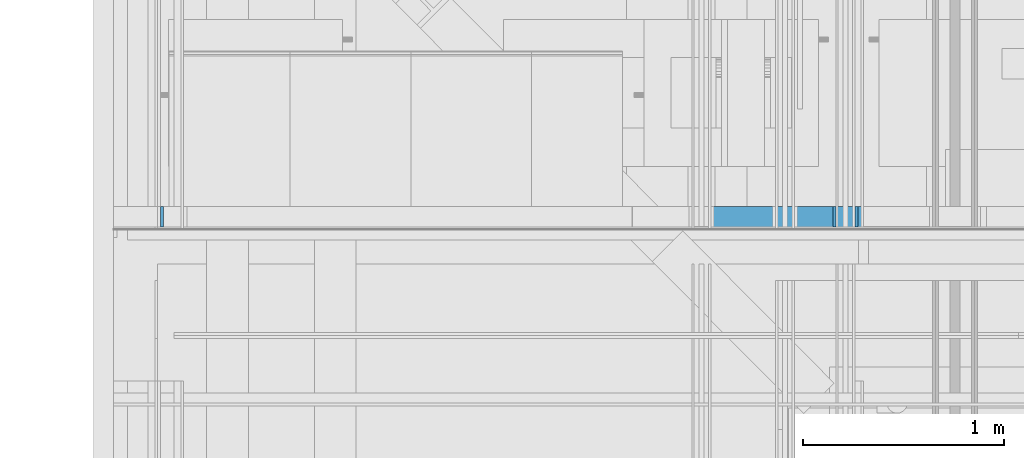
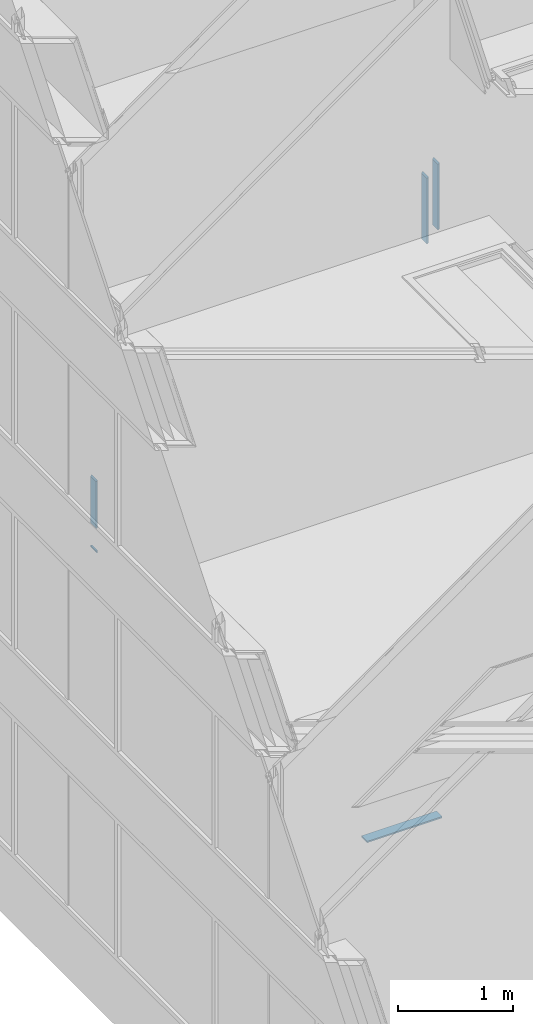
# One storey, part 210 of 583: 5 building element parts, 3 elements without a shape of their own.
"""IFC2X3 building model written with IfcOpenShell, lengths in metres."""

import ifcopenshell
import ifcopenshell.guid

model = None  # the IFC model being written
_history = None  # IfcOwnerHistory: only IFC2X3 demands one
_inside = {}  # id of a spatial element -> (the spatial element, [elements in it])
_under = {}  # id of a project, library or spatial element -> (it, [spatial elements below it])
_declared = {}  # id of a project -> (the project, [libraries it declares])
_typed = {}  # id of a type object -> (the type object, [elements of that type])
_made_of = {}  # id of a material, layer set ... -> (it, [elements and type objects made of it])


def new_model(schema):
    """Start an empty IFC model of exactly this schema.

    Asked for "IFC4X3", IfcOpenShell would pick the latest addendum, in which some entities
    have other attributes; the version numbers below select the first issue.
    IFC2X3 requires an IfcOwnerHistory on every rooted entity: one is made here for all.
    """
    global model, _history
    if schema == "IFC4X3":
        model = ifcopenshell.file(schema_version=(4, 3, 0, 0))
    else:
        model = ifcopenshell.file(schema=schema)
    _inside.clear()
    _under.clear()
    _declared.clear()
    _typed.clear()
    _made_of.clear()
    _history = None
    if model.schema == "IFC2X3":
        org = make("IfcOrganization", Name="unknown")
        user = make(
            "IfcPersonAndOrganization",
            ThePerson=make("IfcPerson", FamilyName="unknown"),
            TheOrganization=org,
        )
        app = make(
            "IfcApplication",
            ApplicationDeveloper=org,
            Version="unknown",
            ApplicationFullName="unknown",
            ApplicationIdentifier="unknown",
        )
        _history = make(
            "IfcOwnerHistory",
            OwningUser=user,
            OwningApplication=app,
            ChangeAction="ADDED",
            CreationDate=0,
        )
    return model


def make(cls, **values):
    """One entity of the class cls with the attributes given. An attribute that is None is left unset."""
    return model.create_entity(
        cls, **{name: value for name, value in values.items() if value is not None}
    )


def entity(cls, *values):
    """Any entity or typed value of the class cls, its attributes in the order of the schema. None: left unset."""
    e = model.create_entity(cls)
    for i, value in enumerate(values):
        if value is not None:
            e[i] = value
    return e


def rooted(cls, **values):
    """An entity with a GlobalId (a new one), such as an element, a storey or a relation."""
    return make(cls, GlobalId=ifcopenshell.guid.new(), OwnerHistory=_history, **values)


def si_unit(unit_type, name, prefix=None):
    """IfcSIUnit, for example si_unit("LENGTHUNIT", "METRE", prefix="MILLI")."""
    return make("IfcSIUnit", UnitType=unit_type, Prefix=prefix, Name=name)


def converted_unit(unit_type, name, factor, base, dimensions=None, offset=None):
    """IfcConversionBasedUnit, such as the inch: factor (a typed value) times the base unit."""
    return make(
        "IfcConversionBasedUnit"
        if offset is None
        else "IfcConversionBasedUnitWithOffset",
        ConversionOffset=offset,
        Dimensions=None
        if dimensions is None
        else entity("IfcDimensionalExponents", *dimensions),
        UnitType=unit_type,
        Name=name,
        ConversionFactor=make(
            "IfcMeasureWithUnit", ValueComponent=factor, UnitComponent=base
        ),
    )


def derived_unit(unit_type, elements):
    """IfcDerivedUnit: a product of units, each with its exponent."""
    return make(
        "IfcDerivedUnit",
        Elements=[
            make("IfcDerivedUnitElement", Unit=unit, Exponent=power)
            for unit, power in elements
        ],
        UnitType=unit_type,
    )


def money_unit(currency):
    """IfcMonetaryUnit."""
    return make("IfcMonetaryUnit", Currency=currency)


def assignment(units):
    """IfcUnitAssignment: the units of a project."""
    return None if units is None else make("IfcUnitAssignment", Units=units)


def point(xyz):
    """IfcCartesianPoint."""
    return None if xyz is None else make("IfcCartesianPoint", Coordinates=xyz)


def direction(xyz):
    """IfcDirection."""
    return None if xyz is None else make("IfcDirection", DirectionRatios=xyz)


def frame(location, z_axis=None, x_axis=None):
    """IfcAxis2Placement3D, a coordinate frame: its origin and axes. An axis left out is left unset."""
    return make(
        "IfcAxis2Placement3D",
        Location=point(location),
        Axis=direction(z_axis),
        RefDirection=direction(x_axis),
    )


def frame_2d(location, x_axis=None):
    """IfcAxis2Placement2D, a coordinate frame in the plane: its origin and x axis."""
    return make(
        "IfcAxis2Placement2D", Location=point(location), RefDirection=direction(x_axis)
    )


def origin_with_axes():
    """The frame at (0, 0, 0) with the z axis (0, 0, 1) and the x axis (1, 0, 0) written out."""
    return frame((0.0, 0.0, 0.0), z_axis=(0.0, 0.0, 1.0), x_axis=(1.0, 0.0, 0.0))


def place(relative_to, where):
    """IfcLocalPlacement: puts the frame where relative to a parent placement (None: the world)."""
    return make(
        "IfcLocalPlacement", PlacementRelTo=relative_to, RelativePlacement=where
    )


def context(
    kind, dimensions, precision=None, world=None, true_north=None, identifier=None
):
    """IfcGeometricRepresentationContext, for example the 3D "Model" context."""
    return make(
        "IfcGeometricRepresentationContext",
        ContextIdentifier=identifier,
        ContextType=kind,
        CoordinateSpaceDimension=dimensions,
        Precision=precision,
        WorldCoordinateSystem=world,
        TrueNorth=true_north,
    )


def subcontext(parent, identifier, kind, view, scale=None):
    """IfcGeometricRepresentationSubContext, for example "Body" below "Model"."""
    return make(
        "IfcGeometricRepresentationSubContext",
        ContextIdentifier=identifier,
        ContextType=kind,
        ParentContext=parent,
        TargetScale=scale,
        TargetView=view,
    )


def project(units=None, contexts=None):
    """IfcProject with its units and contexts."""
    return rooted(
        "IfcProject",
        Name="project",
        RepresentationContexts=contexts,
        UnitsInContext=assignment(units),
    )


def spatial(cls, under=None, at=None, **own):
    """A site, building, storey or space (cls), placed at a placement, below another one or the project."""
    s = rooted(cls, ObjectPlacement=at, **own)
    if under is not None:
        _under.setdefault(under.id(), (under, []))[1].append(s)
    return s


def polyline(points):
    """IfcPolyline through the points."""
    return make("IfcPolyline", Points=[point(p) for p in points])


def profile(cls, at=None, kind="AREA", **sizes):
    """A parametric profile (cls). Its sizes go by their IFC names, for example OverallWidth=200.0."""
    return make(cls, ProfileType=kind, Position=at, **sizes)


def rectangle(**sizes):
    """IfcRectangleProfileDef."""
    return profile("IfcRectangleProfileDef", **sizes)


def outline(outer, holes=None, kind="AREA"):
    """IfcArbitraryClosedProfileDef: a profile drawn as a closed curve; with holes, ...WithVoids."""
    if holes is None:
        return make("IfcArbitraryClosedProfileDef", ProfileType=kind, OuterCurve=outer)
    return make(
        "IfcArbitraryProfileDefWithVoids",
        ProfileType=kind,
        OuterCurve=outer,
        InnerCurves=holes,
    )


def extrude(swept, where, along, depth):
    """IfcExtrudedAreaSolid: the profile swept, set in the frame where, extruded along a direction by depth."""
    return make(
        "IfcExtrudedAreaSolid",
        SweptArea=swept,
        Position=where,
        ExtrudedDirection=direction(along),
        Depth=depth,
    )


def shape(context_of_items, identifier, shape_type, items):
    """IfcShapeRepresentation: the items that make up one representation, for example the "Body"."""
    return make(
        "IfcShapeRepresentation",
        ContextOfItems=context_of_items,
        RepresentationIdentifier=identifier,
        RepresentationType=shape_type,
        Items=items,
    )


def material(Name=None, Category=None):
    """IfcMaterial."""
    return make("IfcMaterial", Name=Name, Category=Category)


def made_of(thing, what):
    """Note that an element or type object is made of a material, layer set ...; save() writes the relation."""
    if what is not None:
        _made_of.setdefault(what.id(), (what, []))[1].append(thing)
    return thing


def type_object(cls, material=None, **own):
    """A type object (cls), such as IfcWallType, which elements share."""
    return made_of(rooted(cls, **own), material)


def element(
    cls,
    number,
    at=None,
    inside=None,
    cuts=None,
    type_object=None,
    material=None,
    context=None,
    identifier="Body",
    shape_type=None,
    held_by="IfcProductDefinitionShape",
    body=None,
    shapes=None,
    **own,
):
    """One element of the class cls, such as IfcWall. Its Tag is "e" and its number.

    at: its placement. inside: the storey or other place that contains it. cuts: it is an
    opening in that element (IfcRelVoidsElement). A single representation is given by context,
    identifier, shape_type and body (its items); several are given by shapes. held_by: the class
    of the entity that holds the representations. save() writes the other relations.
    """
    e = rooted(cls, Tag="e%d" % number, ObjectPlacement=at, **own)
    if body is not None:
        shapes = [shape(context, identifier, shape_type, body)]
    if shapes is not None:
        e.Representation = make(held_by, Representations=shapes)
    if inside is not None:
        _inside.setdefault(inside.id(), (inside, []))[1].append(e)
    if cuts is not None:
        rooted(
            "IfcRelVoidsElement", RelatingBuildingElement=cuts, RelatedOpeningElement=e
        )
    if type_object is not None:
        _typed.setdefault(type_object.id(), (type_object, []))[1].append(e)
    return made_of(e, material)


def aggregate(whole, parts):
    """IfcRelAggregates: a whole, such as a stair, and the parts it consists of."""
    return rooted("IfcRelAggregates", RelatingObject=whole, RelatedObjects=parts)


def save(model, path):
    """Write the relations noted so far, then the file.

    IfcRelAggregates (storeys below a building ...), IfcRelContainedInSpatialStructure (elements
    in a storey), IfcRelDefinesByType, IfcRelAssociatesMaterial and IfcRelDeclares: one each for
    every whole, place, type object, material and project.
    """
    for whole, parts in _under.values():
        aggregate(whole, parts)
    for where, things in _inside.values():
        rooted(
            "IfcRelContainedInSpatialStructure",
            RelatedElements=things,
            RelatingStructure=where,
        )
    for kind, things in _typed.values():
        rooted("IfcRelDefinesByType", RelatedObjects=things, RelatingType=kind)
    for what, things in _made_of.values():
        rooted("IfcRelAssociatesMaterial", RelatedObjects=things, RelatingMaterial=what)
    for by, libraries in _declared.values():
        rooted("IfcRelDeclares", RelatingContext=by, RelatedDefinitions=libraries)
    model.write(path)


model = new_model("IFC2X3")

# Units and contexts
model_context = context("Model", 3, precision=1e-05, world=origin_with_axes(), true_north=direction((0.0, 1.0)))
body_context = subcontext(model_context, "Body", "Model", "MODEL_VIEW", scale=1.0)
ifc_project = project(units=[si_unit("LENGTHUNIT", "METRE"), si_unit("AREAUNIT", "SQUARE_METRE"), si_unit("VOLUMEUNIT", "CUBIC_METRE"), si_unit("ABSORBEDDOSEUNIT", "GRAY"), si_unit("AMOUNTOFSUBSTANCEUNIT", "MOLE"), si_unit("DOSEEQUIVALENTUNIT", "SIEVERT"), si_unit("ELECTRICCAPACITANCEUNIT", "FARAD"), si_unit("ELECTRICCHARGEUNIT", "COULOMB"), si_unit("ELECTRICCONDUCTANCEUNIT", "SIEMENS"), si_unit("ELECTRICCURRENTUNIT", "AMPERE"), si_unit("ELECTRICRESISTANCEUNIT", "OHM"), si_unit("ELECTRICVOLTAGEUNIT", "VOLT"), si_unit("ENERGYUNIT", "JOULE"), si_unit("FORCEUNIT", "NEWTON"), si_unit("FREQUENCYUNIT", "HERTZ"), si_unit("ILLUMINANCEUNIT", "LUX"), si_unit("INDUCTANCEUNIT", "HENRY"), si_unit("LUMINOUSFLUXUNIT", "LUMEN"), si_unit("LUMINOUSINTENSITYUNIT", "CANDELA"), si_unit("MAGNETICFLUXDENSITYUNIT", "TESLA"), si_unit("MAGNETICFLUXUNIT", "WEBER"), si_unit("MASSUNIT", "GRAM"), converted_unit("PLANEANGLEUNIT", "degree", entity("IfcReal", 0.0174532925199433), si_unit("PLANEANGLEUNIT", "RADIAN"), dimensions=[0, 0, 0, 0, 0, 0, 0]), si_unit("POWERUNIT", "WATT"), si_unit("PRESSUREUNIT", "PASCAL"), si_unit("RADIOACTIVITYUNIT", "BECQUEREL"), si_unit("SOLIDANGLEUNIT", "STERADIAN"), si_unit("THERMODYNAMICTEMPERATUREUNIT", "KELVIN"), si_unit("TIMEUNIT", "SECOND"), derived_unit("ACCELERATIONUNIT", [(si_unit("LENGTHUNIT", "METRE"), 1), (si_unit("TIMEUNIT", "SECOND"), -2)]), derived_unit("ANGULARVELOCITYUNIT", [(converted_unit("PLANEANGLEUNIT", "degree", entity("IfcReal", 0.0174532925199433), si_unit("PLANEANGLEUNIT", "RADIAN"), dimensions=[0, 0, 0, 0, 0, 0, 0]), 1), (si_unit("TIMEUNIT", "SECOND"), -1)]), derived_unit("CURVATUREUNIT", [(converted_unit("PLANEANGLEUNIT", "degree", entity("IfcReal", 0.0174532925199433), si_unit("PLANEANGLEUNIT", "RADIAN"), dimensions=[0, 0, 0, 0, 0, 0, 0]), 1), (si_unit("LENGTHUNIT", "METRE"), -1)]), derived_unit("DYNAMICVISCOSITYUNIT", [(si_unit("PRESSUREUNIT", "PASCAL"), 1), (si_unit("TIMEUNIT", "SECOND"), 1)]), derived_unit("HEATFLUXDENSITYUNIT", [(si_unit("POWERUNIT", "WATT"), 1), (si_unit("LENGTHUNIT", "METRE"), -2)]), derived_unit("HEATINGVALUEUNIT", [(si_unit("ENERGYUNIT", "JOULE"), 1), (si_unit("MASSUNIT", "GRAM"), -1)]), derived_unit("INTEGERCOUNTRATEUNIT", [(si_unit("TIMEUNIT", "SECOND"), -1)]), derived_unit("IONCONCENTRATIONUNIT", [(si_unit("MASSUNIT", "GRAM"), 1), (si_unit("VOLUMEUNIT", "CUBIC_METRE"), -1)]), derived_unit("ISOTHERMALMOISTURECAPACITYUNIT", [(si_unit("VOLUMEUNIT", "CUBIC_METRE"), 1), (si_unit("MASSUNIT", "GRAM"), -1)]), derived_unit("KINEMATICVISCOSITYUNIT", [(si_unit("AREAUNIT", "SQUARE_METRE"), 1), (si_unit("TIMEUNIT", "SECOND"), -1)]), derived_unit("LINEARFORCEUNIT", [(si_unit("FORCEUNIT", "NEWTON"), 1), (si_unit("LENGTHUNIT", "METRE"), -1)]), derived_unit("LINEARMOMENTUNIT", [(si_unit("FORCEUNIT", "NEWTON"), 1), (si_unit("LENGTHUNIT", "METRE"), -1)]), derived_unit("LINEARSTIFFNESSUNIT", [(si_unit("FORCEUNIT", "NEWTON"), 1), (si_unit("LENGTHUNIT", "METRE"), -1)]), derived_unit("LINEARVELOCITYUNIT", [(si_unit("LENGTHUNIT", "METRE"), 1), (si_unit("TIMEUNIT", "SECOND"), -1)]), derived_unit("LUMINOUSINTENSITYDISTRIBUTIONUNIT", [(si_unit("LUMINOUSINTENSITYUNIT", "CANDELA"), 1), (si_unit("LUMINOUSFLUXUNIT", "LUMEN"), -1)]), derived_unit("MASSDENSITYUNIT", [(si_unit("MASSUNIT", "GRAM"), 1), (si_unit("VOLUMEUNIT", "CUBIC_METRE"), -1)]), derived_unit("MASSFLOWRATEUNIT", [(si_unit("MASSUNIT", "GRAM"), 1), (si_unit("TIMEUNIT", "SECOND"), -1)]), derived_unit("MASSPERLENGTHUNIT", [(si_unit("MASSUNIT", "GRAM"), 1), (si_unit("LENGTHUNIT", "METRE"), -1)]), derived_unit("MODULUSOFELASTICITYUNIT", [(si_unit("FORCEUNIT", "NEWTON"), 1), (si_unit("AREAUNIT", "SQUARE_METRE"), -1)]), derived_unit("MODULUSOFLINEARSUBGRADEREACTIONUNIT", [(si_unit("FORCEUNIT", "NEWTON"), 1), (si_unit("LENGTHUNIT", "METRE"), -2)]), derived_unit("MODULUSOFROTATIONALSUBGRADEREACTIONUNIT", [(si_unit("FORCEUNIT", "NEWTON"), 1), (si_unit("LENGTHUNIT", "METRE"), 1)]), derived_unit("MODULUSOFSUBGRADEREACTIONUNIT", [(si_unit("FORCEUNIT", "NEWTON"), 1), (si_unit("VOLUMEUNIT", "CUBIC_METRE"), -1)]), derived_unit("MOISTUREDIFFUSIVITYUNIT", [(si_unit("VOLUMEUNIT", "CUBIC_METRE"), 1), (si_unit("TIMEUNIT", "SECOND"), -1)]), derived_unit("MOLECULARWEIGHTUNIT", [(si_unit("MASSUNIT", "GRAM"), 1), (si_unit("AMOUNTOFSUBSTANCEUNIT", "MOLE"), -1)]), derived_unit("PLANARFORCEUNIT", [(si_unit("FORCEUNIT", "NEWTON"), 1), (si_unit("LENGTHUNIT", "METRE"), -2)]), derived_unit("ROTATIONALFREQUENCYUNIT", [(si_unit("TIMEUNIT", "SECOND"), -1)]), derived_unit("ROTATIONALMASSUNIT", [(si_unit("MASSUNIT", "GRAM"), 1), (si_unit("LENGTHUNIT", "METRE"), 2)]), derived_unit("ROTATIONALSTIFFNESSUNIT", [(si_unit("FORCEUNIT", "NEWTON"), 1), (si_unit("LENGTHUNIT", "METRE"), 1), (converted_unit("PLANEANGLEUNIT", "degree", entity("IfcReal", 0.0174532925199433), si_unit("PLANEANGLEUNIT", "RADIAN"), dimensions=[0, 0, 0, 0, 0, 0, 0]), -1)]), derived_unit("SECTIONAREAINTEGRALUNIT", [(si_unit("LENGTHUNIT", "METRE"), 5)]), derived_unit("SECTIONMODULUSUNIT", [(si_unit("LENGTHUNIT", "METRE"), 3)]), derived_unit("SHEARMODULUSUNIT", [(si_unit("FORCEUNIT", "NEWTON"), 1), (si_unit("AREAUNIT", "SQUARE_METRE"), -1)]), derived_unit("SOUNDPOWERUNIT", [(si_unit("ENERGYUNIT", "JOULE"), 1), (si_unit("TIMEUNIT", "SECOND"), -1)]), derived_unit("SPECIFICHEATCAPACITYUNIT", [(si_unit("FORCEUNIT", "NEWTON"), 1), (si_unit("MASSUNIT", "GRAM"), -1), (si_unit("THERMODYNAMICTEMPERATUREUNIT", "KELVIN"), -1)]), derived_unit("TEMPERATUREGRADIENTUNIT", [(si_unit("THERMODYNAMICTEMPERATUREUNIT", "KELVIN"), 1), (si_unit("LENGTHUNIT", "METRE"), -1)]), derived_unit("THERMALADMITTANCEUNIT", [(si_unit("POWERUNIT", "WATT"), 1), (si_unit("AREAUNIT", "SQUARE_METRE"), -1), (si_unit("THERMODYNAMICTEMPERATUREUNIT", "KELVIN"), -1)]), derived_unit("THERMALCONDUCTANCEUNIT", [(si_unit("POWERUNIT", "WATT"), 1), (si_unit("LENGTHUNIT", "METRE"), -1), (si_unit("THERMODYNAMICTEMPERATUREUNIT", "KELVIN"), -1)]), derived_unit("THERMALEXPANSIONCOEFFICIENTUNIT", [(si_unit("THERMODYNAMICTEMPERATUREUNIT", "KELVIN"), -1)]), derived_unit("THERMALRESISTANCEUNIT", [(si_unit("AREAUNIT", "SQUARE_METRE"), 1), (si_unit("POWERUNIT", "WATT"), -1)]), derived_unit("THERMALTRANSMITTANCEUNIT", [(si_unit("POWERUNIT", "WATT"), 1), (si_unit("AREAUNIT", "SQUARE_METRE"), -1), (si_unit("THERMODYNAMICTEMPERATUREUNIT", "KELVIN"), -1)]), derived_unit("TORQUEUNIT", [(si_unit("FORCEUNIT", "NEWTON"), 1), (si_unit("LENGTHUNIT", "METRE"), 1)]), derived_unit("VAPORPERMEABILITYUNIT", [(si_unit("MASSUNIT", "GRAM"), 1), (si_unit("TIMEUNIT", "SECOND"), -1)]), derived_unit("VOLUMETRICFLOWRATEUNIT", [(si_unit("VOLUMEUNIT", "CUBIC_METRE"), 1), (si_unit("TIMEUNIT", "SECOND"), -1)]), derived_unit("WARPINGCONSTANTUNIT", [(si_unit("LENGTHUNIT", "METRE"), 6)]), derived_unit("WARPINGMOMENTUNIT", [(si_unit("FORCEUNIT", "NEWTON"), 1), (si_unit("LENGTHUNIT", "METRE"), 2)]), money_unit("GBP")], contexts=[model_context])

# Site, building, storey
site_placement = place(None, origin_with_axes())
site = spatial("IfcSite", under=ifc_project, at=site_placement, Name="Site", CompositionType="ELEMENT")
building_placement = place(site_placement, origin_with_axes())
building = spatial("IfcBuilding", under=site, at=building_placement, Name="Building01", CompositionType="ELEMENT")
storey_placement = place(building_placement, frame((0.0, 0.0, 20.78), z_axis=(0.0, 0.0, 1.0), x_axis=(1.0, 0.0, 0.0)))
storey = spatial("IfcBuildingStorey", under=building, at=storey_placement, Name="RL", CompositionType="ELEMENT", Elevation=20.78)

# Wall, building element part
wall_type_1 = type_object("IfcWallType", Name="SHE_A-Walls_Type06d_ExternalWallInsulation_48mm", PredefinedType="NOTDEFINED")
wall_1_placement = place(storey_placement, frame((3.77418, 12.13, -20.51), z_axis=(0.0, 1.0, 0.0), x_axis=(-1.0, 0.0, 0.0)))
wall_1 = element("IfcWall", 1, at=wall_1_placement, inside=storey, type_object=wall_type_1, Name="6D", ObjectType="SHE_A-Walls_Type06d_ExternalWallInsulation_48mm")
ifc_material = material(Name="A_BSUK_Walls_Timber")
building_element_part_1_placement = place(wall_1_placement, origin_with_axes())
building_element_part_1 = element("IfcBuildingElementPart", 2, at=building_element_part_1_placement, material=ifc_material, Name="2", context=body_context, shape_type="SweptSolid", body=[
    extrude(rectangle(XDim=0.756894, YDim=0.015, at=frame_2d((0.330447, 0.0555), x_axis=(-1.0, 0.0))), frame((0.0, 0.0, 0.015), z_axis=(0.0, 0.0, 1.0), x_axis=(1.0, 0.0, 0.0)), (0.0, 0.0, 1.0), 0.1),
])
aggregate(wall_1, [building_element_part_1])

# Wall, building element parts
wall_type_2 = type_object("IfcWallType", Name="SHE_A-Walls_Type05a_Partition_95mm_tall", PredefinedType="NOTDEFINED")
wall_2_placement = place(storey_placement, frame((3.72, 12.13, -13.545), z_axis=(0.0, 1.0, 0.0), x_axis=(0.0, 0.0, -1.0)))
wall_2 = element("IfcWall", 3, at=wall_2_placement, inside=storey, type_object=wall_type_2, Name="5A", ObjectType="SHE_A-Walls_Type05a_Partition_95mm_tall")
placement_1 = place(wall_2_placement, origin_with_axes())
building_element_part_2 = element("IfcBuildingElementPart", 4, at=placement_1, material=ifc_material, Name="2", context=body_context, shape_type="SweptSolid", body=[
    extrude(outline(polyline([(0.75, 0.05), (0.05, 0.05), (0.035, 0.035), (0.735, 0.035), (0.75, 0.05)])), frame((0.0, 0.0, 0.015), z_axis=(0.0, 0.0, 1.0), x_axis=(1.0, 0.0, 0.0)), (0.0, 0.0, 1.0), 0.1),
])
building_element_part_3 = element("IfcBuildingElementPart", 5, at=placement_1, material=ifc_material, Name="3", context=body_context, shape_type="SweptSolid", body=[
    extrude(outline(polyline([(0.64, -0.06), (-0.06, -0.06), (-0.075, -0.075), (0.625, -0.075), (0.64, -0.06)])), frame((0.0, 0.0, 0.015), z_axis=(0.0, 0.0, 1.0), x_axis=(1.0, 0.0, 0.0)), (0.0, 0.0, 1.0), 0.1),
])
aggregate(wall_2, [building_element_part_2, building_element_part_3])

wall_type_3 = type_object("IfcWallType", Name="SHE_A-Walls_Type06f_ExternalWallInsulation_48+15mm", PredefinedType="NOTDEFINED")
wall_3_placement = place(storey_placement, frame((0.27, 12.13, -15.686876), z_axis=(0.0, 1.0, 0.0), x_axis=(0.0, 0.0, -1.0)))
wall_3 = element("IfcWall", 6, at=wall_3_placement, inside=storey, type_object=wall_type_3, Name="6F", ObjectType="SHE_A-Walls_Type06f_ExternalWallInsulation_48+15mm")
placement_2 = place(wall_3_placement, origin_with_axes())
building_element_part_4 = element("IfcBuildingElementPart", 7, at=placement_2, material=ifc_material, Name="2", context=body_context, shape_type="SweptSolid", body=[
    extrude(outline(polyline([(0.468124, -0.063), (-0.027, -0.063), (-0.042, -0.078), (0.468124, -0.078), (0.468124, -0.063)])), frame((0.0, 0.0, 0.015), z_axis=(0.0, 0.0, 1.0), x_axis=(1.0, 0.0, 0.0)), (0.0, 0.0, 1.0), 0.1),
])
building_element_part_5 = element("IfcBuildingElementPart", 8, at=placement_2, material=ifc_material, Name="4", context=body_context, shape_type="SweptSolid", body=[
    extrude(outline(polyline([(0.723124, -0.063), (0.70823, -0.063), (0.70823, -0.078), (0.738124, -0.078), (0.723124, -0.063)])), frame((0.0, 0.0, 0.015), z_axis=(0.0, 0.0, 1.0), x_axis=(1.0, 0.0, 0.0)), (0.0, 0.0, 1.0), 0.1),
])
aggregate(wall_3, [building_element_part_4, building_element_part_5])

save(model, "model.ifc")
